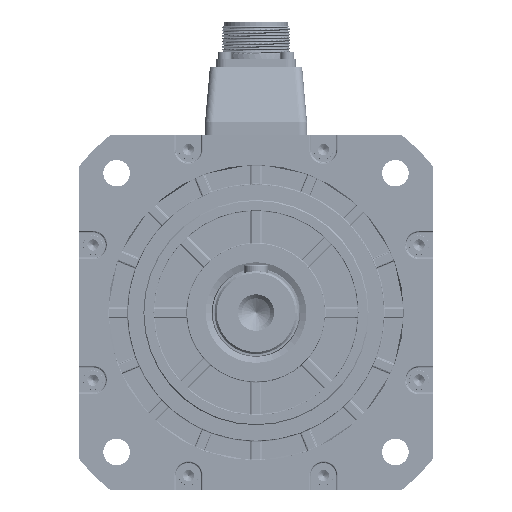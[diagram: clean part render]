
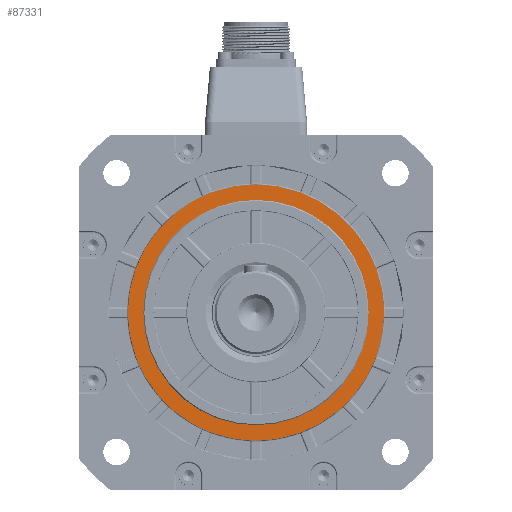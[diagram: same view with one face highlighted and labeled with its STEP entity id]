
A CAD part, left-side view. The second image highlights one B-rep face of the part: STEP entity #87331.
In plain terms, the highlighted planar face has unit normal (-1, 0, 0).
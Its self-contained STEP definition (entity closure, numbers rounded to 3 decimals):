
#67271=CARTESIAN_POINT('',(3.2,0.,0.));
#67272=DIRECTION('',(-1.,0.,0.));
#67273=DIRECTION('',(0.,1.,0.));
#67274=AXIS2_PLACEMENT_3D('',#67271,#67272,#67273);
#67276=CARTESIAN_POINT('',(3.2,0.,0.));
#67277=DIRECTION('',(1.,0.,0.));
#67278=DIRECTION('',(0.,1.,0.));
#67279=AXIS2_PLACEMENT_3D('',#67276,#67277,#67278);
#67321=CARTESIAN_POINT('',(3.2,0.,0.));
#67322=DIRECTION('',(-1.,0.,0.));
#67323=DIRECTION('',(0.,0.,-1.));
#67324=AXIS2_PLACEMENT_3D('',#67321,#67322,#67323);
#67326=CARTESIAN_POINT('',(3.2,0.,0.));
#67327=DIRECTION('',(-1.,0.,0.));
#67328=DIRECTION('',(0.,0.,1.));
#67329=AXIS2_PLACEMENT_3D('',#67326,#67327,#67328);
#75953=CARTESIAN_POINT('',(3.2,57.15,0.));
#75954=CARTESIAN_POINT('',(3.2,-57.15,0.));
#75955=VERTEX_POINT('',#75953);
#75956=VERTEX_POINT('',#75954);
#76173=CARTESIAN_POINT('',(3.2,0.,-65.));
#76174=CARTESIAN_POINT('',(3.2,0.,65.));
#76175=VERTEX_POINT('',#76173);
#76176=VERTEX_POINT('',#76174);
#87314=CARTESIAN_POINT('',(3.2,0.,0.));
#87315=DIRECTION('',(1.,0.,0.));
#87316=DIRECTION('',(0.,-1.,0.));
#87317=AXIS2_PLACEMENT_3D('',#87314,#87315,#87316);
#87318=PLANE('',#87317);
#87320=ORIENTED_EDGE('',*,*,#87319,.F.);
#87322=ORIENTED_EDGE('',*,*,#87321,.F.);
#87323=EDGE_LOOP('',(#87320,#87322));
#87324=FACE_OUTER_BOUND('',#87323,.F.);
#87326=ORIENTED_EDGE('',*,*,#87325,.T.);
#87328=ORIENTED_EDGE('',*,*,#87327,.F.);
#87329=EDGE_LOOP('',(#87326,#87328));
#87330=FACE_BOUND('',#87329,.F.);
#87331=ADVANCED_FACE('',(#87324,#87330),#87318,.F.);
#67275=CIRCLE('',#67274,57.15);
#67280=CIRCLE('',#67279,57.15);
#67325=CIRCLE('',#67324,65.);
#67330=CIRCLE('',#67329,65.);
#87319=EDGE_CURVE('',#76175,#76176,#67325,.T.);
#87321=EDGE_CURVE('',#76176,#76175,#67330,.T.);
#87325=EDGE_CURVE('',#75955,#75956,#67275,.T.);
#87327=EDGE_CURVE('',#75955,#75956,#67280,.T.);
